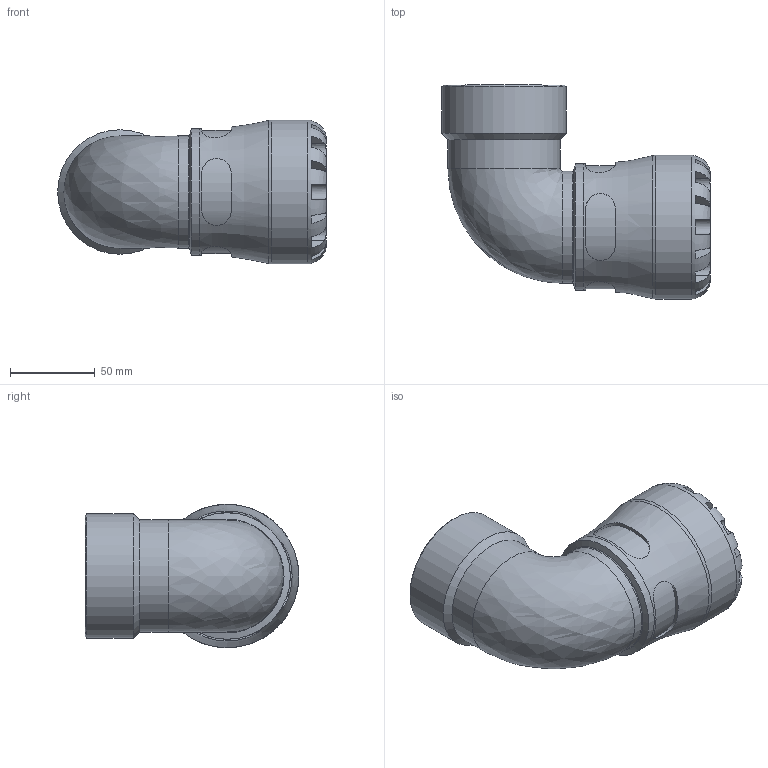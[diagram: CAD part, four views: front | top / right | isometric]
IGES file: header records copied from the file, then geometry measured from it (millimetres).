
Global section: file name: 107600050020_197600050020.ipt; native system: Autodesk Inventor 2015; preprocessor: unknown; author: KIM; date: 20180513.110329; units: millimetre
Bounding box: 158.83 x 126.5 x 85 mm (x, y, z)
Volume: 406058 mm3; surface area: 83513.6 mm2
Topology: 1 solids, 1 shells, 108 faces, 277 edges, 176 vertices
Faces by surface type: plane 60, revolution 28, cylinder 17, cone 3
Full cylindrical faces by diameter (mm): 66.288 x2, 73.653 x1, 74.8 x1, 85 x1
